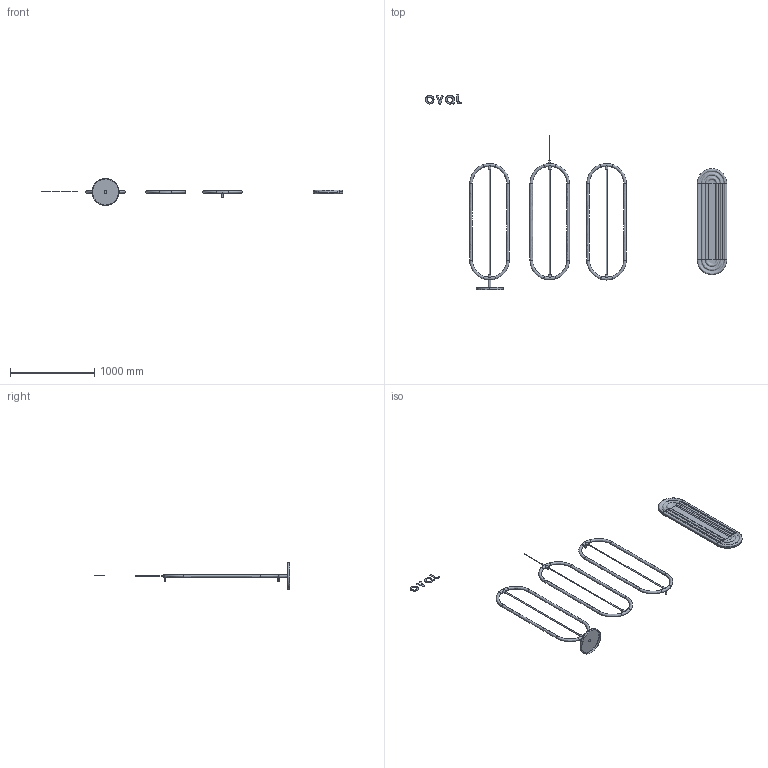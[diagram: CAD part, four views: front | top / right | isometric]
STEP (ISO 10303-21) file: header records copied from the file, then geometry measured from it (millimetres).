
FILE_DESCRIPTION(/* description */ (''),/* implementation_level */ '2;1');
FILE_NAME(/* name */ 'oval',/* time_stamp */ '2025-12-18T14:40:31+01:00',/* author */ (''),/* organization */ (''),/* preprocessor_version */ 'ST-DEVELOPER v19.2',/* originating_system */ 'Rhino 8.25',/* authorisation */ '');
FILE_SCHEMA (('CONFIG_CONTROL_DESIGN'));
Length unit declared in the file: millimetre
Products named in the file (1): Document
Bounding box: 3581.3 x 2326.99 x 320 mm (x, y, z)
Volume: 14431972.9 mm3; surface area: 3640918.5 mm2
Topology: 14 solids, 19 shells, 219 faces, 690 edges, 612 vertices
Faces by surface type: plane 107, cylinder 72, bspline 40
Full cylindrical faces by diameter (mm): 6 x5, 12 x3, 18 x5, 32 x7
Entity records: 19991 total; most frequent: CARTESIAN_POINT 16144, ORIENTED_EDGE 1060, EDGE_CURVE 543, VERTEX_POINT 352, DIRECTION 347, AXIS2_PLACEMENT_3D 262, EDGE_LOOP 234, ADVANCED_FACE 219
